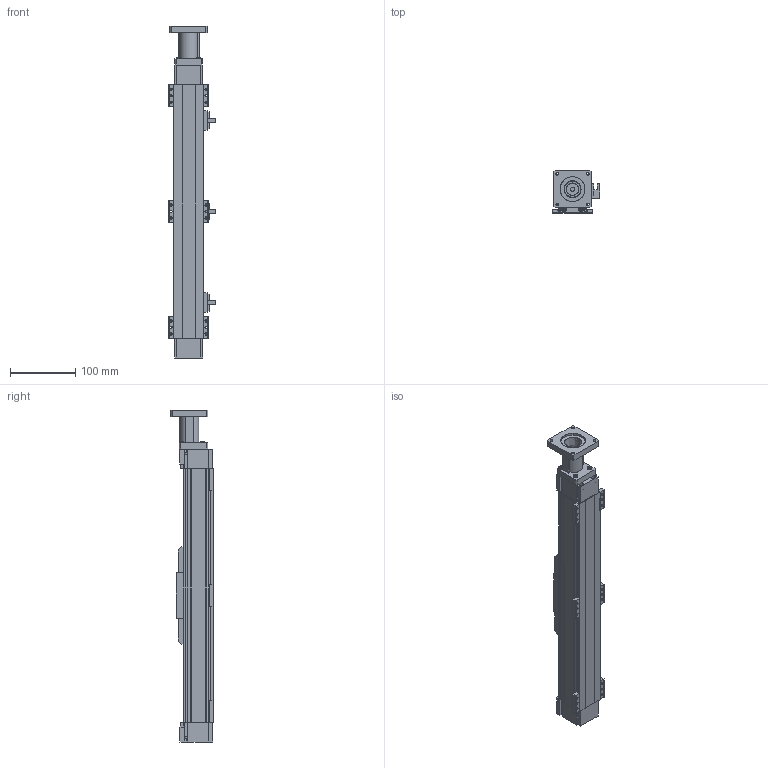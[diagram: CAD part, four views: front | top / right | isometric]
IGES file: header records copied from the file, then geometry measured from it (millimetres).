
Start section: SolidWorks IGES file using analytic representation for surfaces
Bounding box: 73.2 x 65 x 510 mm (x, y, z)
Surface area: 214561.2 mm2 (no closed solid volume)
Topology: 0 solids, 0 shells, 1001 faces, 11415 edges, 11395 vertices
Faces by surface type: bspline 758, revolution 243
